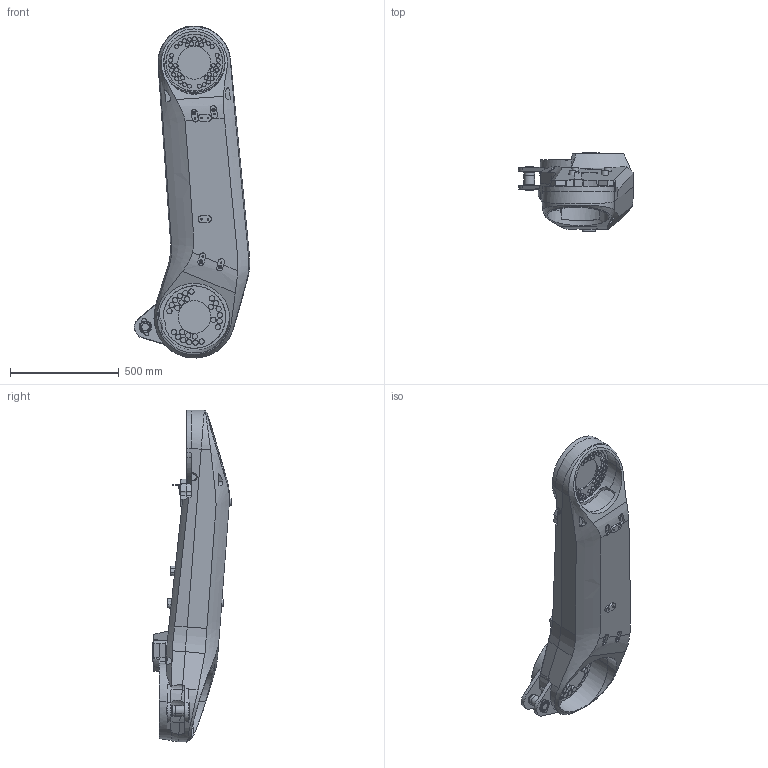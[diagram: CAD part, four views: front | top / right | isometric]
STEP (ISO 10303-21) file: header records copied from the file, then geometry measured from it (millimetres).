
FILE_DESCRIPTION (( 'STEP AP214' ), '1' );
FILE_NAME ('IRB6730_210kg-310_OC_00_LINK02_CAD.step', '2026-05-26T08:41:13', ( '' ), ( '' ), 'SwSTEP 2.0', 'SolidWorks 2024', '' );
FILE_SCHEMA (( 'AUTOMOTIVE_DESIGN' ));
Length unit declared in the file: millimetre
Products named in the file (1): IRB6730_210kg-310_OC_00_LINK02_CAD
Bounding box: 530.76 x 362.5 x 1527.05 mm (x, y, z)
Volume: 78318263.3 mm3; surface area: 2117211.3 mm2
Topology: 1 solids, 4 shells, 758 faces, 1806 edges, 1172 vertices
Faces by surface type: plane 331, cylinder 281, bspline 79, cone 51, torus 14, sphere 2
Entity records: 59068 total; most frequent: CARTESIAN_POINT 33677, ORIENTED_EDGE 3600, DIRECTION 3342, EDGE_CURVE 1800, AXIS2_PLACEMENT_3D 1271, VERTEX_POINT 1172, EDGE_LOOP 888, LINE 800
